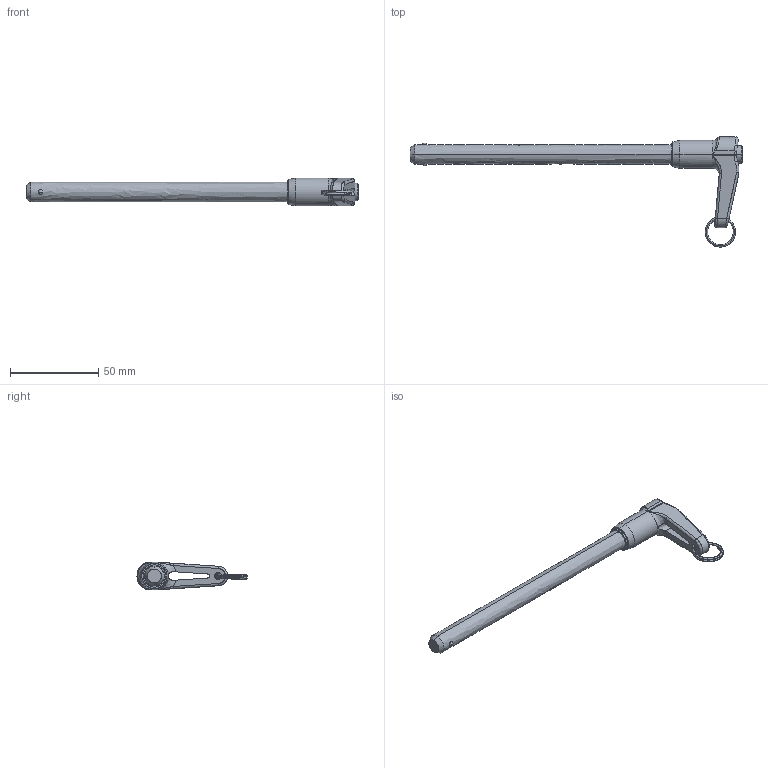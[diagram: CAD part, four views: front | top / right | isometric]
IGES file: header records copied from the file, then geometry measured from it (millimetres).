
Start section: SolidWorks IGES file using analytic representation for surfaces
Global section: file name: C:\Documents and Settings\IANO\My Documents\Wix and Auto CAD Work\CAD Models\Parametric Models\Wix Models\30000\33620_v2\33620_v2_20160606_IGES\33620.E055.igs; native system: SolidWorks 2009; preprocessor: SolidWorks 2009; author: IANO; date: 160615.130108; units: inch
Bounding box: 188.56 x 62.52 x 15.88 mm (x, y, z)
Surface area: 11944.7 mm2 (no closed solid volume)
Topology: 0 solids, 0 shells, 83 faces, 1221 edges, 1218 vertices
Faces by surface type: bspline 53, revolution 30
